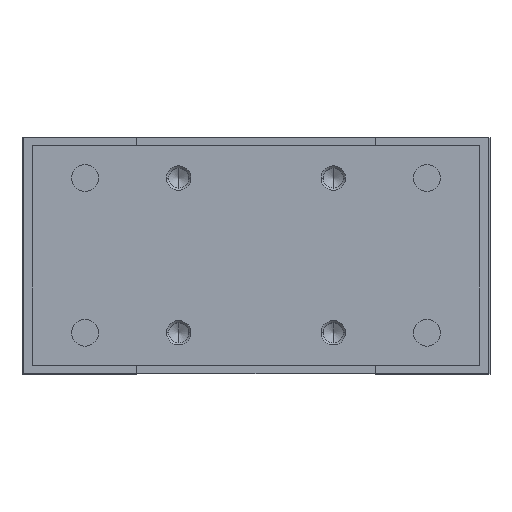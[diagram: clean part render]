
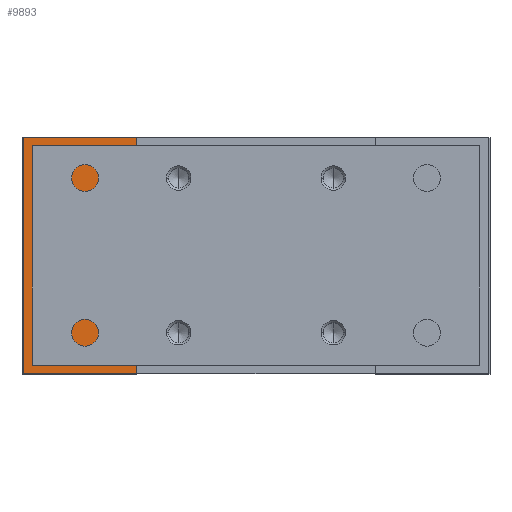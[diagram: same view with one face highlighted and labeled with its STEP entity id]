
A CAD part, top view. The second image highlights one B-rep face of the part: STEP entity #9893.
In plain terms, the highlighted planar face has unit normal (0, 0, 1).
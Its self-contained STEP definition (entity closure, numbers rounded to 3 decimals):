
#173 = DIRECTION ( 'NONE',  ( 0., -1., 0. ) ) ;
#433 = ORIENTED_EDGE ( 'NONE', *, *, #3989, .F. ) ;
#535 = DIRECTION ( 'NONE',  ( 1., 0., 0. ) ) ;
#653 = LINE ( 'NONE', #4495, #8842 ) ;
#657 = VECTOR ( 'NONE', #535, 1000. ) ;
#696 = VERTEX_POINT ( 'NONE', #1003 ) ;
#960 = ORIENTED_EDGE ( 'NONE', *, *, #6327, .T. ) ;
#967 = VERTEX_POINT ( 'NONE', #6184 ) ;
#993 = CARTESIAN_POINT ( 'NONE',  ( -51.5, 0., 59. ) ) ;
#1003 = CARTESIAN_POINT ( 'NONE',  ( -57.2, -29., 59. ) ) ;
#1229 = VERTEX_POINT ( 'NONE', #4207 ) ;
#1423 = CARTESIAN_POINT ( 'NONE',  ( -43.5, 0., 59. ) ) ;
#1470 = LINE ( 'NONE', #7866, #657 ) ;
#2056 = EDGE_CURVE ( 'NONE', #1229, #2796, #7346, .T. ) ;
#2169 = CARTESIAN_POINT ( 'NONE',  ( -57.5, 29., 59. ) ) ;
#2336 = AXIS2_PLACEMENT_3D ( 'NONE', #2169, #2918, #6168 ) ;
#2531 = ORIENTED_EDGE ( 'NONE', *, *, #2056, .F. ) ;
#2796 = VERTEX_POINT ( 'NONE', #993 ) ;
#2918 = DIRECTION ( 'NONE',  ( 0., 0., -1. ) ) ;
#2962 = ORIENTED_EDGE ( 'NONE', *, *, #8456, .F. ) ;
#3008 = PLANE ( 'NONE',  #2336 ) ;
#3327 = ORIENTED_EDGE ( 'NONE', *, *, #9195, .F. ) ;
#3791 = LINE ( 'NONE', #10125, #6232 ) ;
#3989 = EDGE_CURVE ( 'NONE', #2796, #1229, #7317, .T. ) ;
#4207 = CARTESIAN_POINT ( 'NONE',  ( -35.5, 0., 59. ) ) ;
#4213 = EDGE_LOOP ( 'NONE', ( #3327, #9222, #960, #2962 ) ) ;
#4363 = VECTOR ( 'NONE', #173, 1000. ) ;
#4387 = DIRECTION ( 'NONE',  ( 0., 0., 1. ) ) ;
#4431 = CARTESIAN_POINT ( 'NONE',  ( -43.5, 0., 59. ) ) ;
#4495 = CARTESIAN_POINT ( 'NONE',  ( -57.5, -29., 59. ) ) ;
#4585 = DIRECTION ( 'NONE',  ( 1., 0., 0. ) ) ;
#5246 = CARTESIAN_POINT ( 'NONE',  ( -29.25, 29., 59. ) ) ;
#5309 = DIRECTION ( 'NONE',  ( 1., 0., 0. ) ) ;
#5647 = VERTEX_POINT ( 'NONE', #5246 ) ;
#5746 = CARTESIAN_POINT ( 'NONE',  ( -57.2, 58., 59. ) ) ;
#6168 = DIRECTION ( 'NONE',  ( 0., -1., 0. ) ) ;
#6184 = CARTESIAN_POINT ( 'NONE',  ( -57.2, 29., 59. ) ) ;
#6223 = DIRECTION ( 'NONE',  ( 1., 0., 0. ) ) ;
#6232 = VECTOR ( 'NONE', #8573, 1000. ) ;
#6327 = EDGE_CURVE ( 'NONE', #696, #8385, #653, .T. ) ;
#6588 = EDGE_CURVE ( 'NONE', #967, #696, #7877, .T. ) ;
#7148 = AXIS2_PLACEMENT_3D ( 'NONE', #1423, #7804, #4585 ) ;
#7317 = CIRCLE ( 'NONE', #7148, 8. ) ;
#7346 = CIRCLE ( 'NONE', #9830, 8. ) ;
#7629 = FACE_BOUND ( 'NONE', #9242, .T. ) ;
#7692 = CARTESIAN_POINT ( 'NONE',  ( -29.25, -29., 59. ) ) ;
#7804 = DIRECTION ( 'NONE',  ( 0., 0., 1. ) ) ;
#7866 = CARTESIAN_POINT ( 'NONE',  ( -57.5, 29., 59. ) ) ;
#7877 = LINE ( 'NONE', #5746, #4363 ) ;
#8385 = VERTEX_POINT ( 'NONE', #7692 ) ;
#8456 = EDGE_CURVE ( 'NONE', #5647, #8385, #3791, .T. ) ;
#8573 = DIRECTION ( 'NONE',  ( 0., -1., 0. ) ) ;
#8842 = VECTOR ( 'NONE', #6223, 1000. ) ;
#9195 = EDGE_CURVE ( 'NONE', #967, #5647, #1470, .T. ) ;
#9222 = ORIENTED_EDGE ( 'NONE', *, *, #6588, .T. ) ;
#9242 = EDGE_LOOP ( 'NONE', ( #433, #2531 ) ) ;
#9830 = AXIS2_PLACEMENT_3D ( 'NONE', #4431, #4387, #5309 ) ;
#9893 = ADVANCED_FACE ( 'NONE', ( #9966, #7629 ), #3008, .F. ) ;
#9966 = FACE_OUTER_BOUND ( 'NONE', #4213, .T. ) ;
#10125 = CARTESIAN_POINT ( 'NONE',  ( -29.25, 29., 59. ) ) ;
